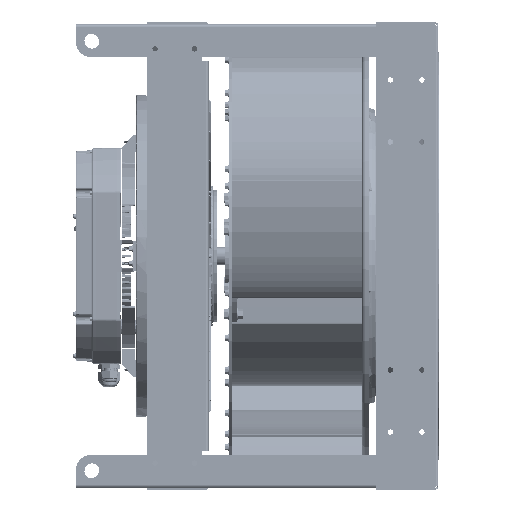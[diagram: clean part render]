
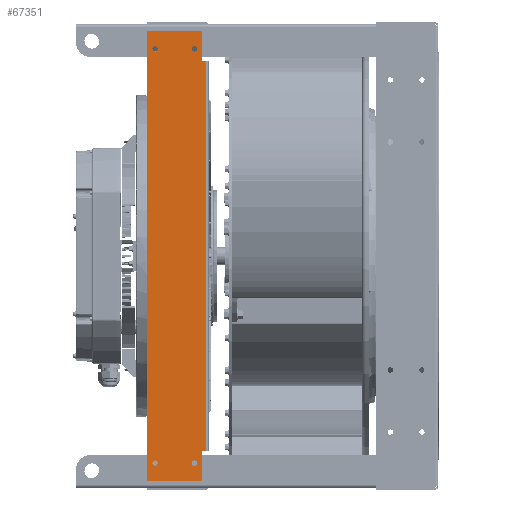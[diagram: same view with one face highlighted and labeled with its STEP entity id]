
A CAD part, left-side view. The second image highlights one B-rep face of the part: STEP entity #67351.
In plain terms, the highlighted planar face has unit normal (-1, 0, 0) as drawn and (0, 0, 1) by its records, which use the part's own axes.
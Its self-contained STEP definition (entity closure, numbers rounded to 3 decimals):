
#2328 = EDGE_CURVE ( 'NONE', #214670, #208245, #54612, .T. ) ;
#3229 = DIRECTION ( 'NONE',  ( -1., 0., 0. ) ) ;
#3417 = VECTOR ( 'NONE', #3229, 39.37 ) ;
#4171 = VERTEX_POINT ( 'NONE', #136284 ) ;
#7651 = EDGE_CURVE ( 'NONE', #118228, #4171, #93441, .T. ) ;
#7775 = ORIENTED_EDGE ( 'NONE', *, *, #237104, .F. ) ;
#10929 = LINE ( 'NONE', #246726, #211468 ) ;
#12286 = FACE_OUTER_BOUND ( 'NONE', #43575, .T. ) ;
#17153 = EDGE_LOOP ( 'NONE', ( #210662 ) ) ;
#17995 = VECTOR ( 'NONE', #18247, 39.37 ) ;
#18247 = DIRECTION ( 'NONE',  ( -1., 0., 0. ) ) ;
#23648 = CARTESIAN_POINT ( 'NONE',  ( -13.174, 1.27, 0.135 ) ) ;
#23756 = CARTESIAN_POINT ( 'NONE',  ( -13.346, 1.27, 0.135 ) ) ;
#24365 = CARTESIAN_POINT ( 'NONE',  ( 13.174, 1.27, 0.135 ) ) ;
#25882 = CARTESIAN_POINT ( 'NONE',  ( -14.506, 1.77, 0.135 ) ) ;
#31927 = EDGE_LOOP ( 'NONE', ( #7775 ) ) ;
#40574 = CARTESIAN_POINT ( 'NONE',  ( 12.596, 1.977, 0.135 ) ) ;
#43575 = EDGE_LOOP ( 'NONE', ( #74319, #277649, #126606, #242549, #273742, #194889, #264467, #88784 ) ) ;
#46838 = DIRECTION ( 'NONE',  ( 0., -1., 0. ) ) ;
#50685 = CIRCLE ( 'NONE', #91196, 0.172 ) ;
#51476 = DIRECTION ( 'NONE',  ( 1., 0., 0. ) ) ;
#52228 = CARTESIAN_POINT ( 'NONE',  ( -12.596, 1.977, 0.135 ) ) ;
#53742 = DIRECTION ( 'NONE',  ( 0., 0., 1. ) ) ;
#54612 = LINE ( 'NONE', #140706, #141150 ) ;
#56356 = AXIS2_PLACEMENT_3D ( 'NONE', #269694, #53742, #138452 ) ;
#58495 = CARTESIAN_POINT ( 'NONE',  ( 14.506, -1.77, 0.135 ) ) ;
#58903 = FACE_BOUND ( 'NONE', #31927, .T. ) ;
#63543 = DIRECTION ( 'NONE',  ( 1., 0., 0. ) ) ;
#63581 = VERTEX_POINT ( 'NONE', #259704 ) ;
#64045 = EDGE_CURVE ( 'NONE', #133774, #133774, #75734, .T. ) ;
#67351 = ADVANCED_FACE ( 'NONE', ( #12286, #58903, #274822, #164800, #98485 ), #81451, .F. ) ;
#70875 = VERTEX_POINT ( 'NONE', #117429 ) ;
#73813 = CARTESIAN_POINT ( 'NONE',  ( 12.596, 1.977, 0.135 ) ) ;
#74319 = ORIENTED_EDGE ( 'NONE', *, *, #7651, .T. ) ;
#74851 = DIRECTION ( 'NONE',  ( -1., 0., 0. ) ) ;
#75734 = CIRCLE ( 'NONE', #242566, 0.172 ) ;
#78225 = DIRECTION ( 'NONE',  ( 0., 0., 1. ) ) ;
#78565 = DIRECTION ( 'NONE',  ( 0., -1., 0. ) ) ;
#81451 = PLANE ( 'NONE',  #134963 ) ;
#85762 = DIRECTION ( 'NONE',  ( 0., -1., 0. ) ) ;
#88784 = ORIENTED_EDGE ( 'NONE', *, *, #190326, .T. ) ;
#89160 = EDGE_CURVE ( 'NONE', #195214, #195214, #250008, .T. ) ;
#91196 = AXIS2_PLACEMENT_3D ( 'NONE', #247660, #78225, #51476 ) ;
#93441 = LINE ( 'NONE', #179559, #213426 ) ;
#98485 = FACE_BOUND ( 'NONE', #137259, .T. ) ;
#101107 = EDGE_CURVE ( 'NONE', #250530, #214670, #267175, .T. ) ;
#116881 = DIRECTION ( 'NONE',  ( 0., 1., 0. ) ) ;
#117429 = CARTESIAN_POINT ( 'NONE',  ( 13.518, -1.27, 0.135 ) ) ;
#118228 = VERTEX_POINT ( 'NONE', #25882 ) ;
#121093 = VECTOR ( 'NONE', #85762, 39.37 ) ;
#121941 = DIRECTION ( 'NONE',  ( -1., 0., 0. ) ) ;
#122419 = DIRECTION ( 'NONE',  ( -1., 0., 0. ) ) ;
#124967 = CARTESIAN_POINT ( 'NONE',  ( 12.596, 1.977, 0.135 ) ) ;
#126606 = ORIENTED_EDGE ( 'NONE', *, *, #234011, .T. ) ;
#126978 = LINE ( 'NONE', #211647, #17995 ) ;
#127077 = LINE ( 'NONE', #170845, #211882 ) ;
#133774 = VERTEX_POINT ( 'NONE', #23648 ) ;
#134942 = EDGE_LOOP ( 'NONE', ( #271625 ) ) ;
#134963 = AXIS2_PLACEMENT_3D ( 'NONE', #250874, #143603, #122419 ) ;
#136284 = CARTESIAN_POINT ( 'NONE',  ( -14.506, -1.77, 0.135 ) ) ;
#137259 = EDGE_LOOP ( 'NONE', ( #268286 ) ) ;
#138452 = DIRECTION ( 'NONE',  ( -1., 0., 0. ) ) ;
#140706 = CARTESIAN_POINT ( 'NONE',  ( -12.596, 1.977, 0.135 ) ) ;
#141150 = VECTOR ( 'NONE', #78565, 39.37 ) ;
#143603 = DIRECTION ( 'NONE',  ( 0., 0., -1. ) ) ;
#150810 = EDGE_CURVE ( 'NONE', #250530, #238764, #276337, .T. ) ;
#155242 = EDGE_CURVE ( 'NONE', #4171, #276193, #127077, .T. ) ;
#157541 = CIRCLE ( 'NONE', #224996, 0.172 ) ;
#164800 = FACE_BOUND ( 'NONE', #134942, .T. ) ;
#169865 = CARTESIAN_POINT ( 'NONE',  ( -13.346, -1.27, 0.135 ) ) ;
#170845 = CARTESIAN_POINT ( 'NONE',  ( -14.506, -1.77, 0.135 ) ) ;
#174578 = CARTESIAN_POINT ( 'NONE',  ( 12.596, 1.77, 0.135 ) ) ;
#176266 = DIRECTION ( 'NONE',  ( 1., 0., 0. ) ) ;
#179559 = CARTESIAN_POINT ( 'NONE',  ( -14.506, -1.77, 0.135 ) ) ;
#190326 = EDGE_CURVE ( 'NONE', #208245, #118228, #203300, .T. ) ;
#194889 = ORIENTED_EDGE ( 'NONE', *, *, #101107, .T. ) ;
#195214 = VERTEX_POINT ( 'NONE', #24365 ) ;
#203300 = LINE ( 'NONE', #268216, #253844 ) ;
#208245 = VERTEX_POINT ( 'NONE', #220125 ) ;
#210662 = ORIENTED_EDGE ( 'NONE', *, *, #64045, .F. ) ;
#211468 = VECTOR ( 'NONE', #116881, 39.37 ) ;
#211647 = CARTESIAN_POINT ( 'NONE',  ( -14.506, 1.77, 0.135 ) ) ;
#211882 = VECTOR ( 'NONE', #63543, 39.37 ) ;
#213399 = EDGE_CURVE ( 'NONE', #70875, #70875, #50685, .T. ) ;
#213426 = VECTOR ( 'NONE', #46838, 39.37 ) ;
#214670 = VERTEX_POINT ( 'NONE', #52228 ) ;
#220125 = CARTESIAN_POINT ( 'NONE',  ( -12.596, 1.77, 0.135 ) ) ;
#224996 = AXIS2_PLACEMENT_3D ( 'NONE', #169865, #255928, #121941 ) ;
#226134 = VERTEX_POINT ( 'NONE', #268662 ) ;
#234011 = EDGE_CURVE ( 'NONE', #276193, #226134, #10929, .T. ) ;
#237104 = EDGE_CURVE ( 'NONE', #63581, #63581, #157541, .T. ) ;
#238764 = VERTEX_POINT ( 'NONE', #174578 ) ;
#239869 = EDGE_CURVE ( 'NONE', #226134, #238764, #126978, .T. ) ;
#242549 = ORIENTED_EDGE ( 'NONE', *, *, #239869, .T. ) ;
#242566 = AXIS2_PLACEMENT_3D ( 'NONE', #23756, #279310, #176266 ) ;
#246726 = CARTESIAN_POINT ( 'NONE',  ( 14.506, -1.77, 0.135 ) ) ;
#247660 = CARTESIAN_POINT ( 'NONE',  ( 13.346, -1.27, 0.135 ) ) ;
#250008 = CIRCLE ( 'NONE', #56356, 0.172 ) ;
#250530 = VERTEX_POINT ( 'NONE', #124967 ) ;
#250874 = CARTESIAN_POINT ( 'NONE',  ( 0., 0., 0.135 ) ) ;
#253844 = VECTOR ( 'NONE', #74851, 39.37 ) ;
#255928 = DIRECTION ( 'NONE',  ( 0., 0., 1. ) ) ;
#259704 = CARTESIAN_POINT ( 'NONE',  ( -13.518, -1.27, 0.135 ) ) ;
#264467 = ORIENTED_EDGE ( 'NONE', *, *, #2328, .T. ) ;
#267175 = LINE ( 'NONE', #73813, #3417 ) ;
#268216 = CARTESIAN_POINT ( 'NONE',  ( -14.506, 1.77, 0.135 ) ) ;
#268286 = ORIENTED_EDGE ( 'NONE', *, *, #89160, .F. ) ;
#268662 = CARTESIAN_POINT ( 'NONE',  ( 14.506, 1.77, 0.135 ) ) ;
#269694 = CARTESIAN_POINT ( 'NONE',  ( 13.346, 1.27, 0.135 ) ) ;
#271625 = ORIENTED_EDGE ( 'NONE', *, *, #213399, .F. ) ;
#273742 = ORIENTED_EDGE ( 'NONE', *, *, #150810, .F. ) ;
#274822 = FACE_BOUND ( 'NONE', #17153, .T. ) ;
#276193 = VERTEX_POINT ( 'NONE', #58495 ) ;
#276337 = LINE ( 'NONE', #40574, #121093 ) ;
#277649 = ORIENTED_EDGE ( 'NONE', *, *, #155242, .T. ) ;
#279310 = DIRECTION ( 'NONE',  ( 0., 0., 1. ) ) ;
